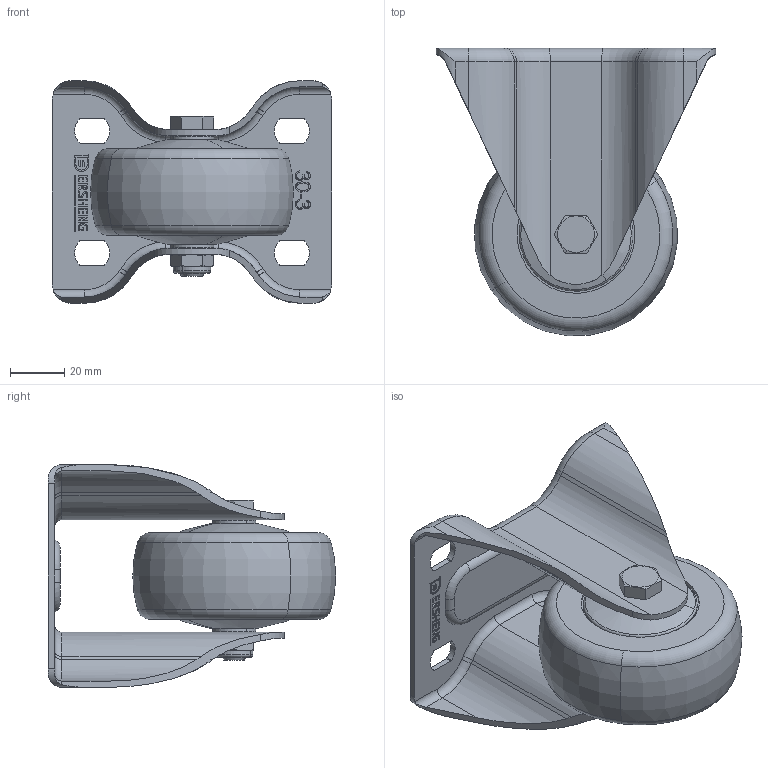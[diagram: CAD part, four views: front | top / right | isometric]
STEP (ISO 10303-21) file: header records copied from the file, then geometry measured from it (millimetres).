
FILE_DESCRIPTION (( 'STEP AP203' ), '1' );
FILE_NAME ('4113003001038-7.STEP', '2025-04-22T00:03:20', ( '' ), ( '' ), 'SwSTEP 2.0', 'SolidWorks 2019', '' );
FILE_SCHEMA (( 'CONFIG_CONTROL_DESIGN' ));
Length unit declared in the file: millimetre
Products named in the file (5): 32130010300010-30系列3英吋高級新式固定架 20191211; 輪; 4502090003 尼龍螺帽 20190422; 4202095401 4''''.5''''儀器.高級活動用車心 20190430; 4113003001038-7
Assembly tree (4 placements, depth 2):
  4113003001038-7
    4202095401 4''''.5''''儀器.高級活動用車心 20190430
    4502090003 尼龍螺帽 20190422
    32130010300010-30系列3英吋高級新式固定架 20191211
    輪
Bounding box: 103 x 105.86 x 82 mm (x, y, z)
Volume: 177842.7 mm3; surface area: 59750.9 mm2
Topology: 4 solids, 6 shells, 414 faces, 1080 edges, 702 vertices
Faces by surface type: plane 176, cylinder 115, bspline 61, torus 36, cone 18, sphere 8
Entity records: 17111 total; most frequent: CARTESIAN_POINT 6742, ORIENTED_EDGE 2160, DIRECTION 1876, EDGE_CURVE 1080, VERTEX_POINT 702, AXIS2_PLACEMENT_3D 644, LINE 588, VECTOR 588
